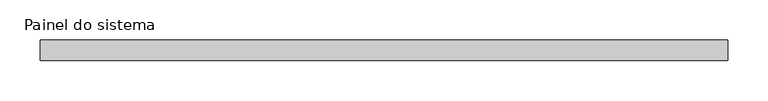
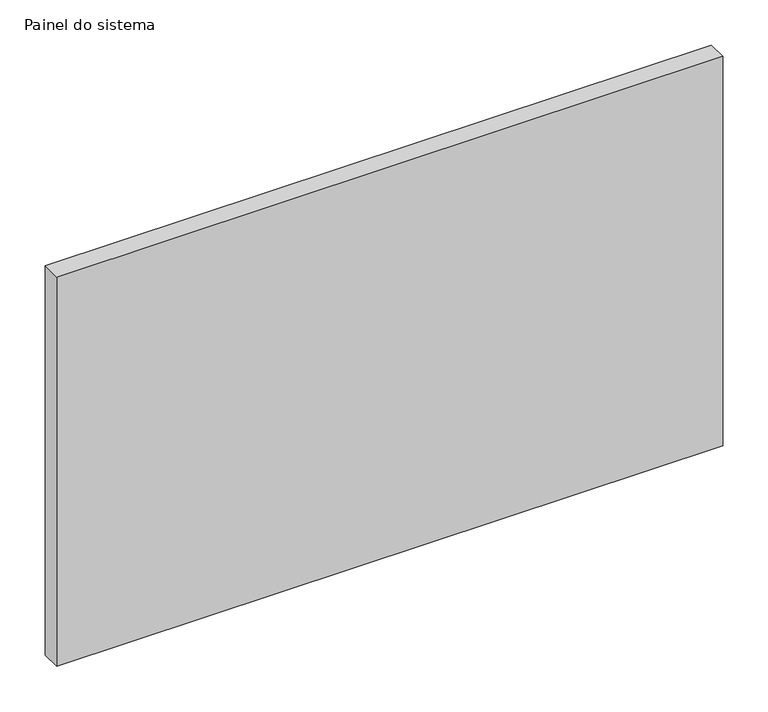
"""IFC4 building model written with IfcOpenShell, lengths in millimetres: plate geometry, Painel do sistema : Envidraçado."""

from ifc_helpers import new_model, si_unit, origin, origin_with_axes, place, context, project, spatial, polyline, outline, extrude, source, transform, mapped, element, save


def painel_do_sistema_17bf8afc(model_context):
    return source(origin(), model_context, "Body", "SweptSolid", [
        extrude(outline(polyline([(425.0, 24.5), (-425.0, 24.5), (-425.0, 49.5), (425.0, 49.5), (425.0, 24.5)])), origin_with_axes(), (0.0, 0.0, 1.0), 525.0),
    ])


if __name__ == "__main__":
    model = new_model("IFC4")
    model_context = context("Model", 3, world=origin())
    ifc_project = project(units=[si_unit("LENGTHUNIT", "METRE", prefix="MILLI")], contexts=[model_context])
    site = spatial("IfcSite", under=ifc_project)
    building = spatial("IfcBuilding", under=site)
    placement = place(None, origin())
    painel_do_sistema_shape = painel_do_sistema_17bf8afc(model_context)
    element("IfcPlate", 1, ObjectType="Painel do sistema : Envidraçado", at=placement, inside=building, context=model_context, shape_type="MappedRepresentation", body=[
        mapped(painel_do_sistema_shape, transform((0.0, 0.0, 0.0), x_axis=(1.0, 0.0, 0.0), y_axis=(0.0, 1.0, 0.0), z_axis=(0.0, 0.0, 1.0))),
    ])
    save(model, "model.ifc")
